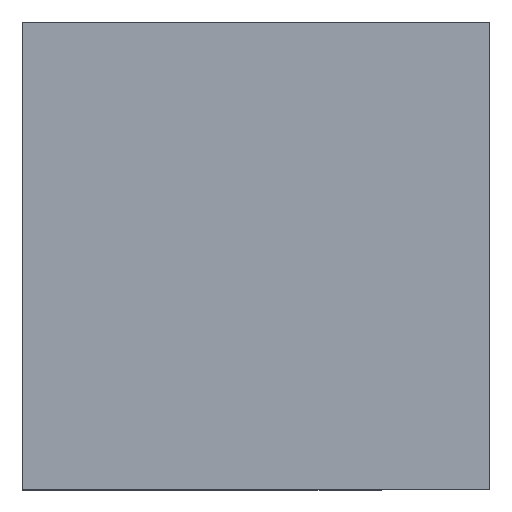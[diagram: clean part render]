
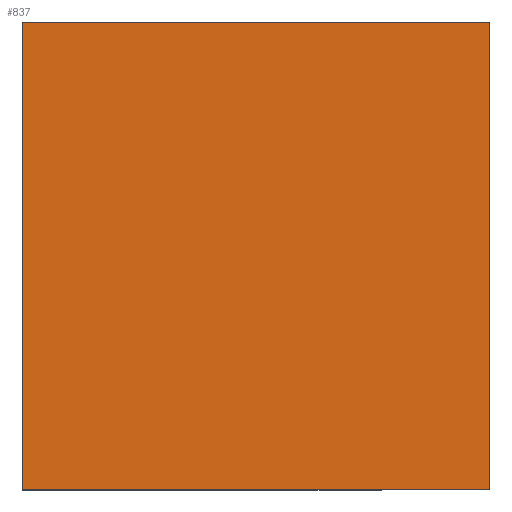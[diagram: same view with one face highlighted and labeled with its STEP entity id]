
A CAD part, top view. The second image highlights one B-rep face of the part: STEP entity #837.
In plain terms, the highlighted planar face has unit normal (0, 0, 1).
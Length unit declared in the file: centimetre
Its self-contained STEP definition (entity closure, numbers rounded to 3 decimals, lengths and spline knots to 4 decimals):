
#37 = VECTOR ( 'NONE', #635, 100. ) ;
#53 = VECTOR ( 'NONE', #845, 100. ) ;
#57 = ORIENTED_EDGE ( 'NONE', *, *, #87, .T. ) ;
#65 = EDGE_LOOP ( 'NONE', ( #384, #57, #638, #522 ) ) ;
#87 = EDGE_CURVE ( 'NONE', #171, #258, #841, .T. ) ;
#103 = PLANE ( 'NONE',  #657 ) ;
#115 = DIRECTION ( 'NONE',  ( 0., 0., 1. ) ) ;
#171 = VERTEX_POINT ( 'NONE', #592 ) ;
#178 = VERTEX_POINT ( 'NONE', #668 ) ;
#215 = VECTOR ( 'NONE', #255, 100. ) ;
#255 = DIRECTION ( 'NONE',  ( 0., 1., 0. ) ) ;
#258 = VERTEX_POINT ( 'NONE', #289 ) ;
#265 = LINE ( 'NONE', #454, #215 ) ;
#272 = VERTEX_POINT ( 'NONE', #497 ) ;
#289 = CARTESIAN_POINT ( 'NONE',  ( 1000., 0., 1000. ) ) ;
#291 = CARTESIAN_POINT ( 'NONE',  ( 0., 1000., 1000. ) ) ;
#358 = LINE ( 'NONE', #291, #37 ) ;
#366 = FACE_OUTER_BOUND ( 'NONE', #65, .T. ) ;
#384 = ORIENTED_EDGE ( 'NONE', *, *, #781, .T. ) ;
#454 = CARTESIAN_POINT ( 'NONE',  ( 1000., 1000., 1000. ) ) ;
#471 = EDGE_CURVE ( 'NONE', #258, #178, #265, .T. ) ;
#485 = DIRECTION ( 'NONE',  ( 1., 0., 0. ) ) ;
#487 = LINE ( 'NONE', #762, #53 ) ;
#497 = CARTESIAN_POINT ( 'NONE',  ( 0., 1000., 1000. ) ) ;
#522 = ORIENTED_EDGE ( 'NONE', *, *, #666, .T. ) ;
#592 = CARTESIAN_POINT ( 'NONE',  ( 0., 0., 1000. ) ) ;
#616 = CARTESIAN_POINT ( 'NONE',  ( 0., 0., 1000. ) ) ;
#633 = CARTESIAN_POINT ( 'NONE',  ( 0., 0., 1000. ) ) ;
#635 = DIRECTION ( 'NONE',  ( -1., 0., 0. ) ) ;
#638 = ORIENTED_EDGE ( 'NONE', *, *, #471, .T. ) ;
#640 = VECTOR ( 'NONE', #831, 100. ) ;
#657 = AXIS2_PLACEMENT_3D ( 'NONE', #633, #115, #485 ) ;
#666 = EDGE_CURVE ( 'NONE', #178, #272, #358, .T. ) ;
#668 = CARTESIAN_POINT ( 'NONE',  ( 1000., 1000., 1000. ) ) ;
#762 = CARTESIAN_POINT ( 'NONE',  ( 0., 1000., 1000. ) ) ;
#781 = EDGE_CURVE ( 'NONE', #272, #171, #487, .T. ) ;
#831 = DIRECTION ( 'NONE',  ( 1., 0., 0. ) ) ;
#837 = ADVANCED_FACE ( 'NONE', ( #366 ), #103, .T. ) ;
#841 = LINE ( 'NONE', #616, #640 ) ;
#845 = DIRECTION ( 'NONE',  ( 0., -1., 0. ) ) ;
